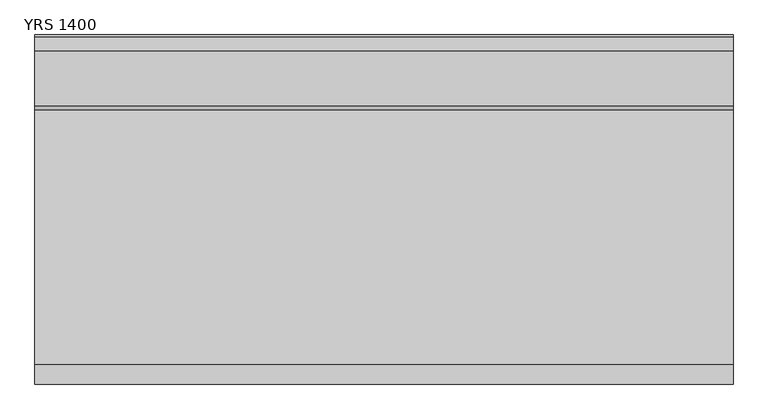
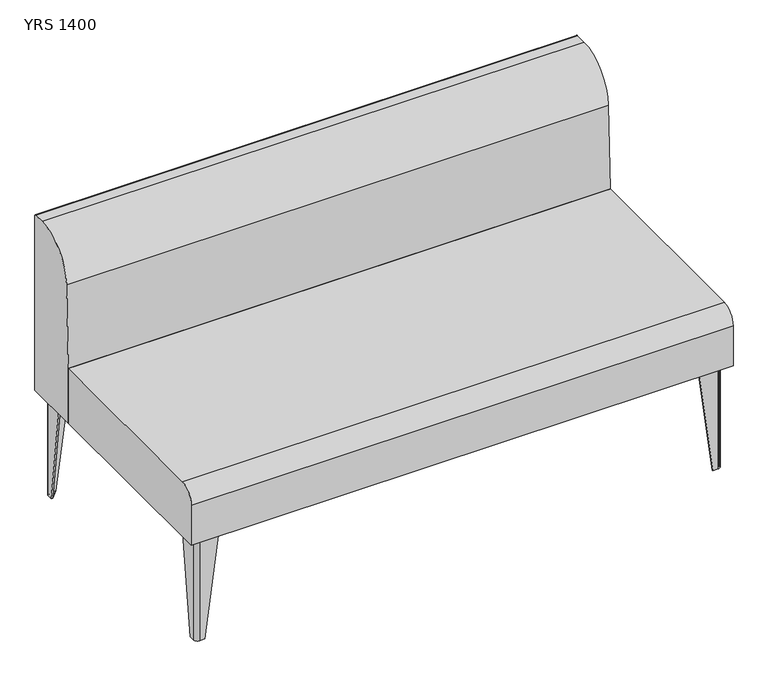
"""IFC4 building model written with IfcOpenShell, lengths in millimetres: furniture geometry, Mobiliário_Mobiliário de Escritório_LinhaYoung_Sofa Reto (Aço) - YR_Marelli : YRS 1400."""

from ifc_helpers import new_model, si_unit, point, frame, frame_2d, origin, origin_with_axes, place, context, project, spatial, polyline, circle_curve, trimmed, segment, composite_curve, outline, extrude, source, transform, mapped, element, save
from ifc_brep_helpers import plane_surface, cylinder_surface, revolved_surface, advanced_brep


def yrs_1400_05e61edc(model_context):
    return source(origin(), model_context, "Body", "SolidModel", [
        advanced_brep(
        [(20.0, 75.0, 280.0), (20.0, 25.0, 280.0), (30.0, 15.0, 280.0), (80.0, 15.0, 280.0), (80.0, 18.0, 280.0), (30.0, 18.0, 280.0), (23.0, 25.0, 280.0), (23.0, 75.0, 280.0), (20.0, 39.0, 0.0), (23.0, 39.0, 0.0), (23.0, 25.0, 0.0), (30.0, 18.0, 0.0), (44.0, 18.0, 0.0), (44.0, 15.0, 0.0), (30.0, 15.0, 0.0), (20.0, 25.0, 0.0)],
        [
            (0, 1),
            (1, 2, circle_curve(frame((30.0, 25.0, 280.0), z_axis=(0.0, 0.0, 1.0), x_axis=(0.0, -1.0, 0.0)), 10.0)),
            (2, 3),
            (3, 4),
            (4, 5),
            (5, 6, circle_curve(frame((30.0, 25.0, 280.0), z_axis=(0.0, 0.0, -1.0), x_axis=(-1.0, 0.0, 0.0)), 7.0)),
            (6, 7),
            (7, 0),
            (8, 9),
            (9, 10),
            (10, 11, circle_curve(frame((30.0, 25.0, 0.0), z_axis=(0.0, 0.0, 1.0), x_axis=(-1.0, 0.0, 0.0)), 7.0)),
            (11, 12),
            (12, 13),
            (13, 14),
            (14, 15, circle_curve(frame((30.0, 25.0, 0.0), z_axis=(0.0, 0.0, -1.0), x_axis=(0.0, -1.0, 0.0)), 10.0)),
            (15, 8),
            (15, 1),
            (0, 8),
            (14, 2),
            (13, 3),
            (12, 4),
            (11, 5),
            (10, 6),
            (9, 7),
        ],
        [
            plane_surface(frame((38.25, 33.25, 280.0), z_axis=(0.0, 0.0, 1.0), x_axis=(0.0, -1.0, 0.0))),
            plane_surface(frame((29.25, 24.25, 0.0), z_axis=(0.0, 0.0, -1.0), x_axis=(0.0, -1.0, 0.0))),
            plane_surface(frame((20.0, 32.0, 0.0), z_axis=(-1.0, 0.0, 0.0), x_axis=(0.0, -1.0, 0.0))),
            cylinder_surface(frame((30.0, 25.0, 0.0), z_axis=(0.0, 0.0, 1.0), x_axis=(0.0, -1.0, 0.0)), 10.0),
            plane_surface(frame((37.0, 15.0, 0.0), z_axis=(0.0, -1.0, 0.0), x_axis=(1.0, 0.0, 0.0))),
            plane_surface(frame((44.0, 16.5, 0.0), z_axis=(0.9918357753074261, 0.0, -0.12752174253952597), x_axis=(0.0, 1.0, 0.0))),
            plane_surface(frame((37.0, 18.0, 0.0), z_axis=(0.0, 1.0, 0.0), x_axis=(-1.0, 0.0, 0.0))),
            revolved_surface(polyline([(23.0, 25.0, 280.0), (23.0, 25.0, 0.0)]), (30.0, 25.0, 0.0), (0.0, 0.0, 1.0)),
            plane_surface(frame((23.0, 32.0, 0.0), z_axis=(1.0, 0.0, 0.0), x_axis=(0.0, 1.0, 0.0))),
            plane_surface(frame((21.5, 39.0, 0.0), z_axis=(0.0, 0.9918357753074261, -0.12752174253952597), x_axis=(-1.0, 0.0, 0.0))),
        ],
        [
            (0, [[1, 2, 3, 4, 5, 6, 7, 8]]),
            (1, [[9, 10, 11, 12, 13, 14, 15, 16]]),
            (2, [[-16, 17, -1, 18]]),
            (3, [[-15, 19, -2, -17]]),
            (4, [[-14, 20, -3, -19]]),
            (5, [[-13, 21, -4, -20]]),
            (6, [[-12, 22, -5, -21]]),
            (7, [[-11, 23, -6, -22]]),
            (8, [[-10, 24, -7, -23]]),
            (9, [[-9, -18, -8, -24]]),
        ],
    ),
        advanced_brep(
        [(1380.0, 75.0, 280.0), (1377.0, 75.0, 280.0), (1377.0, 25.0, 280.0), (1370.0, 18.0, 280.0), (1320.0, 18.0, 280.0), (1320.0, 15.0, 280.0), (1370.0, 15.0, 280.0), (1380.0, 25.0, 280.0), (1380.0, 39.0, 0.0), (1380.0, 25.0, 0.0), (1370.0, 15.0, 0.0), (1356.0, 15.0, 0.0), (1356.0, 18.0, 0.0), (1370.0, 18.0, 0.0), (1377.0, 25.0, 0.0), (1377.0, 39.0, 0.0)],
        [
            (0, 1),
            (1, 2),
            (2, 3, circle_curve(frame((1370.0, 25.0, 280.0), z_axis=(0.0, 0.0, -1.0), x_axis=(0.0, -1.0, 0.0)), 7.0)),
            (3, 4),
            (4, 5),
            (5, 6),
            (6, 7, circle_curve(frame((1370.0, 25.0, 280.0), z_axis=(0.0, 0.0, 1.0), x_axis=(1.0, 0.0, 0.0)), 10.0)),
            (7, 0),
            (8, 9),
            (9, 10, circle_curve(frame((1370.0, 25.0, 0.0), z_axis=(0.0, 0.0, -1.0), x_axis=(1.0, 0.0, 0.0)), 10.0)),
            (10, 11),
            (11, 12),
            (12, 13),
            (13, 14, circle_curve(frame((1370.0, 25.0, 0.0), z_axis=(0.0, 0.0, 1.0), x_axis=(0.0, -1.0, 0.0)), 7.0)),
            (14, 15),
            (15, 8),
            (8, 0),
            (7, 9),
            (6, 10),
            (5, 11),
            (4, 12),
            (3, 13),
            (2, 14),
            (1, 15),
        ],
        [
            plane_surface(frame((1361.75, 33.25, 280.0), z_axis=(0.0, 0.0, 1.0), x_axis=(-1.0, 0.0, 0.0))),
            plane_surface(frame((1370.75, 24.25, 0.0), z_axis=(0.0, 0.0, -1.0), x_axis=(-1.0, 0.0, 0.0))),
            plane_surface(frame((1380.0, 32.0, 0.0), z_axis=(1.0, 0.0, 0.0), x_axis=(0.0, 1.0, 0.0))),
            cylinder_surface(frame((1370.0, 25.0, 0.0), z_axis=(0.0, 0.0, 1.0), x_axis=(1.0, 0.0, 0.0)), 10.0),
            plane_surface(frame((1363.0, 15.0, 0.0), z_axis=(0.0, -1.0, 0.0), x_axis=(1.0, 0.0, 0.0))),
            plane_surface(frame((1356.0, 16.5, 0.0), z_axis=(-0.9918357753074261, 0.0, -0.127521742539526), x_axis=(0.0, -1.0, 0.0))),
            plane_surface(frame((1363.0, 18.0, 0.0), z_axis=(0.0, 1.0, 0.0), x_axis=(-1.0, 0.0, 0.0))),
            revolved_surface(polyline([(1370.0, 18.0, 280.0), (1370.0, 18.0, 0.0)]), (1370.0, 25.0, 0.0), (0.0, 0.0, 1.0)),
            plane_surface(frame((1377.0, 32.0, 0.0), z_axis=(-1.0, 0.0, 0.0), x_axis=(0.0, -1.0, 0.0))),
            plane_surface(frame((1378.5, 39.0, 0.0), z_axis=(0.0, 0.9918357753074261, -0.12752174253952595), x_axis=(-1.0, 0.0, 0.0))),
        ],
        [
            (0, [[1, 2, 3, 4, 5, 6, 7, 8]]),
            (1, [[9, 10, 11, 12, 13, 14, 15, 16]]),
            (2, [[-9, 17, -8, 18]]),
            (3, [[-10, -18, -7, 19]]),
            (4, [[-11, -19, -6, 20]]),
            (5, [[-12, -20, -5, 21]]),
            (6, [[-13, -21, -4, 22]]),
            (7, [[-14, -22, -3, 23]]),
            (8, [[-15, -23, -2, 24]]),
            (9, [[-16, -24, -1, -17]]),
        ],
    ),
        advanced_brep(
        [(20.0, 625.0, 280.0), (23.0, 625.0, 280.0), (23.0, 675.0, 280.0), (30.0, 682.0, 280.0), (80.0, 682.0, 280.0), (80.0, 685.0, 280.0), (30.0, 685.0, 280.0), (20.0, 675.0, 280.0), (20.0, 661.0, 0.0), (20.0, 675.0, 0.0), (30.0, 685.0, 0.0), (44.0, 685.0, 0.0), (44.0, 682.0, 0.0), (30.0, 682.0, 0.0), (23.0, 675.0, 0.0), (23.0, 661.0, 0.0)],
        [
            (0, 1),
            (1, 2),
            (2, 3, circle_curve(frame((30.0, 675.0, 280.0), z_axis=(0.0, 0.0, -1.0), x_axis=(0.0, 1.0, 0.0)), 7.0)),
            (3, 4),
            (4, 5),
            (5, 6),
            (6, 7, circle_curve(frame((30.0, 675.0, 280.0), z_axis=(0.0, 0.0, 1.0), x_axis=(-1.0, 0.0, 0.0)), 10.0)),
            (7, 0),
            (8, 9),
            (9, 10, circle_curve(frame((30.0, 675.0, 0.0), z_axis=(0.0, 0.0, -1.0), x_axis=(-1.0, 0.0, 0.0)), 10.0)),
            (10, 11),
            (11, 12),
            (12, 13),
            (13, 14, circle_curve(frame((30.0, 675.0, 0.0), z_axis=(0.0, 0.0, 1.0), x_axis=(0.0, 1.0, 0.0)), 7.0)),
            (14, 15),
            (15, 8),
            (8, 0),
            (7, 9),
            (6, 10),
            (5, 11),
            (4, 12),
            (3, 13),
            (2, 14),
            (1, 15),
        ],
        [
            plane_surface(frame((38.25, 666.75, 280.0), z_axis=(0.0, 0.0, 1.0), x_axis=(1.0, 0.0, 0.0))),
            plane_surface(frame((29.25, 675.75, 0.0), z_axis=(0.0, 0.0, -1.0), x_axis=(1.0, 0.0, 0.0))),
            plane_surface(frame((20.0, 668.0, 0.0), z_axis=(-1.0, 0.0, 0.0), x_axis=(0.0, -1.0, 0.0))),
            cylinder_surface(frame((30.0, 675.0, 0.0), z_axis=(0.0, 0.0, 1.0), x_axis=(-1.0, 0.0, 0.0)), 10.0),
            plane_surface(frame((37.0, 685.0, 0.0), z_axis=(0.0, 1.0, 0.0), x_axis=(-1.0, 0.0, 0.0))),
            plane_surface(frame((44.0, 683.5, 0.0), z_axis=(0.9918357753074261, 0.0, -0.12752174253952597), x_axis=(0.0, 1.0, 0.0))),
            plane_surface(frame((37.0, 682.0, 0.0), z_axis=(0.0, -1.0, 0.0), x_axis=(1.0, 0.0, 0.0))),
            revolved_surface(polyline([(30.0, 682.0, 280.0), (30.0, 682.0, 0.0)]), (30.0, 675.0, 0.0), (0.0, 0.0, 1.0)),
            plane_surface(frame((23.0, 668.0, 0.0), z_axis=(1.0, 0.0, 0.0), x_axis=(0.0, 1.0, 0.0))),
            plane_surface(frame((21.5, 661.0, 0.0), z_axis=(0.0, -0.9918357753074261, -0.127521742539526), x_axis=(1.0, 0.0, 0.0))),
        ],
        [
            (0, [[1, 2, 3, 4, 5, 6, 7, 8]]),
            (1, [[9, 10, 11, 12, 13, 14, 15, 16]]),
            (2, [[-9, 17, -8, 18]]),
            (3, [[-10, -18, -7, 19]]),
            (4, [[-11, -19, -6, 20]]),
            (5, [[-12, -20, -5, 21]]),
            (6, [[-13, -21, -4, 22]]),
            (7, [[-14, -22, -3, 23]]),
            (8, [[-15, -23, -2, 24]]),
            (9, [[-16, -24, -1, -17]]),
        ],
    ),
        advanced_brep(
        [(1380.0, 625.0, 280.0), (1380.0, 675.0, 280.0), (1370.0, 685.0, 280.0), (1320.0, 685.0, 280.0), (1320.0, 682.0, 280.0), (1370.0, 682.0, 280.0), (1377.0, 675.0, 280.0), (1377.0, 625.0, 280.0), (1380.0, 661.0, 0.0), (1377.0, 661.0, 0.0), (1377.0, 675.0, 0.0), (1370.0, 682.0, 0.0), (1356.0, 682.0, 0.0), (1356.0, 685.0, 0.0), (1370.0, 685.0, 0.0), (1380.0, 675.0, 0.0)],
        [
            (0, 1),
            (1, 2, circle_curve(frame((1370.0, 675.0, 280.0), z_axis=(0.0, 0.0, 1.0), x_axis=(0.0, 1.0, 0.0)), 10.0)),
            (2, 3),
            (3, 4),
            (4, 5),
            (5, 6, circle_curve(frame((1370.0, 675.0, 280.0), z_axis=(0.0, 0.0, -1.0), x_axis=(1.0, 0.0, 0.0)), 7.0)),
            (6, 7),
            (7, 0),
            (8, 9),
            (9, 10),
            (10, 11, circle_curve(frame((1370.0, 675.0, 0.0), z_axis=(0.0, 0.0, 1.0), x_axis=(1.0, 0.0, 0.0)), 7.0)),
            (11, 12),
            (12, 13),
            (13, 14),
            (14, 15, circle_curve(frame((1370.0, 675.0, 0.0), z_axis=(0.0, 0.0, -1.0), x_axis=(0.0, 1.0, 0.0)), 10.0)),
            (15, 8),
            (15, 1),
            (0, 8),
            (14, 2),
            (13, 3),
            (12, 4),
            (11, 5),
            (10, 6),
            (9, 7),
        ],
        [
            plane_surface(frame((1361.75, 666.75, 280.0), z_axis=(0.0, 0.0, 1.0), x_axis=(0.0, 1.0, 0.0))),
            plane_surface(frame((1370.75, 675.75, 0.0), z_axis=(0.0, 0.0, -1.0), x_axis=(0.0, 1.0, 0.0))),
            plane_surface(frame((1380.0, 668.0, 0.0), z_axis=(1.0, 0.0, 0.0), x_axis=(0.0, 1.0, 0.0))),
            cylinder_surface(frame((1370.0, 675.0, 0.0), z_axis=(0.0, 0.0, 1.0), x_axis=(0.0, 1.0, 0.0)), 10.0),
            plane_surface(frame((1363.0, 685.0, 0.0), z_axis=(0.0, 1.0, 0.0), x_axis=(-1.0, 0.0, 0.0))),
            plane_surface(frame((1356.0, 683.5, 0.0), z_axis=(-0.9918357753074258, 0.0, -0.1275217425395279), x_axis=(0.0, -1.0, 0.0))),
            plane_surface(frame((1363.0, 682.0, 0.0), z_axis=(0.0, -1.0, 0.0), x_axis=(1.0, 0.0, 0.0))),
            revolved_surface(polyline([(1377.0, 675.0, 280.0), (1377.0, 675.0, 0.0)]), (1370.0, 675.0, 0.0), (0.0, 0.0, 1.0)),
            plane_surface(frame((1377.0, 668.0, 0.0), z_axis=(-1.0, 0.0, 0.0), x_axis=(0.0, -1.0, 0.0))),
            plane_surface(frame((1378.5, 661.0, 0.0), z_axis=(0.0, -0.9918357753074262, -0.12752174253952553), x_axis=(1.0, 0.0, 0.0))),
        ],
        [
            (0, [[1, 2, 3, 4, 5, 6, 7, 8]]),
            (1, [[9, 10, 11, 12, 13, 14, 15, 16]]),
            (2, [[-16, 17, -1, 18]]),
            (3, [[-15, 19, -2, -17]]),
            (4, [[-14, 20, -3, -19]]),
            (5, [[-13, 21, -4, -20]]),
            (6, [[-12, 22, -5, -21]]),
            (7, [[-11, 23, -6, -22]]),
            (8, [[-10, 24, -7, -23]]),
            (9, [[-9, -18, -8, -24]]),
        ],
    ),
        extrude(outline(composite_curve([segment(polyline([(23.0, 39.0), (44.0, 18.0), (30.0, 18.0)]), True, "CONTINUOUS"), segment(trimmed(circle_curve(frame_2d((30.0, 25.0)), 7.0), [point((30.0, 18.0))], [point((23.0, 25.0))], False, "CARTESIAN"), True, "CONTINUOUS"), segment(polyline([(23.0, 25.0), (23.0, 39.0)]), True, "CONTINUOUS")], self_intersect=False)), origin_with_axes(), (0.0, 0.0, 1.0), 1.0),
        extrude(outline(composite_curve([segment(polyline([(23.0, 661.0), (23.0, 675.0)]), True, "CONTINUOUS"), segment(trimmed(circle_curve(frame_2d((30.0, 675.0)), 7.0), [point((23.0, 675.0))], [point((30.0, 682.0))], False, "CARTESIAN"), True, "CONTINUOUS"), segment(polyline([(30.0, 682.0), (44.0, 682.0), (23.0, 661.0)]), True, "CONTINUOUS")], self_intersect=False)), origin_with_axes(), (0.0, 0.0, 1.0), 1.0),
        extrude(outline(composite_curve([segment(polyline([(1377.0, 39.0), (1377.0, 25.0)]), True, "CONTINUOUS"), segment(trimmed(circle_curve(frame_2d((1370.0, 25.0)), 7.0), [point((1377.0, 25.0))], [point((1370.0, 18.0))], False, "CARTESIAN"), True, "CONTINUOUS"), segment(polyline([(1370.0, 18.0), (1356.0, 18.0), (1377.0, 39.0)]), True, "CONTINUOUS")], self_intersect=False)), origin_with_axes(), (0.0, 0.0, 1.0), 1.0),
        extrude(outline(composite_curve([segment(polyline([(1377.0, 661.0), (1356.0, 682.0), (1370.0, 682.0)]), True, "CONTINUOUS"), segment(trimmed(circle_curve(frame_2d((1370.0, 675.0)), 7.0), [point((1370.0, 682.0))], [point((1377.0, 675.0))], False, "CARTESIAN"), True, "CONTINUOUS"), segment(polyline([(1377.0, 675.0), (1377.0, 661.0)]), True, "CONTINUOUS")], self_intersect=False)), origin_with_axes(), (0.0, 0.0, 1.0), 1.0),
        extrude(outline(composite_curve([segment(trimmed(circle_curve(frame_2d((30.0, 25.0)), 7.0), [point((30.0, 18.0))], [point((23.0, 25.0))], False, "CARTESIAN"), True, "CONTINUOUS"), segment(polyline([(23.0, 25.0), (23.0, 93.0)]), True, "CONTINUOUS"), segment(trimmed(circle_curve(frame_2d((28.0, 93.0)), 5.0), [point((23.0, 93.0))], [point((28.0, 98.0))], False, "CARTESIAN"), True, "CONTINUOUS"), segment(polyline([(28.0, 98.0), (51.9545624, 98.0)]), True, "CONTINUOUS"), segment(trimmed(circle_curve(frame_2d((52.6241051, 89.931755)), 8.0959783), [point((51.9545624, 98.0))], [point((58.520382, 95.479618))], False, "CARTESIAN"), True, "CONTINUOUS"), segment(polyline([(58.520382, 95.479618), (100.479618, 53.520382)]), True, "CONTINUOUS"), segment(trimmed(circle_curve(frame_2d((94.931755, 47.6241051)), 8.0959783), [point((100.479618, 53.520382))], [point((103.0, 46.9545624))], False, "CARTESIAN"), True, "CONTINUOUS"), segment(polyline([(103.0, 46.9545624), (103.0, 23.0)]), True, "CONTINUOUS"), segment(trimmed(circle_curve(frame_2d((98.0, 23.0)), 5.0), [point((103.0, 23.0))], [point((98.0, 18.0))], False, "CARTESIAN"), True, "CONTINUOUS"), segment(polyline([(98.0, 18.0), (30.0, 18.0)]), True, "CONTINUOUS")], self_intersect=False)), frame((0.0, 0.0, 279.0), z_axis=(0.0, 0.0, 1.0), x_axis=(1.0, 0.0, 0.0)), (0.0, 0.0, 1.0), 1.0),
        extrude(outline(composite_curve([segment(polyline([(30.0, 682.0), (98.0, 682.0)]), True, "CONTINUOUS"), segment(trimmed(circle_curve(frame_2d((98.0, 677.0)), 5.0), [point((98.0, 682.0))], [point((103.0, 677.0))], False, "CARTESIAN"), True, "CONTINUOUS"), segment(polyline([(103.0, 677.0), (103.0, 653.0454376)]), True, "CONTINUOUS"), segment(trimmed(circle_curve(frame_2d((94.931755, 652.3758949)), 8.0959783), [point((103.0, 653.0454376))], [point((100.479618, 646.479618))], False, "CARTESIAN"), True, "CONTINUOUS"), segment(polyline([(100.479618, 646.479618), (58.520382, 604.520382)]), True, "CONTINUOUS"), segment(trimmed(circle_curve(frame_2d((52.6241051, 610.068245)), 8.0959783), [point((58.520382, 604.520382))], [point((51.9545624, 602.0))], False, "CARTESIAN"), True, "CONTINUOUS"), segment(polyline([(51.9545624, 602.0), (28.0, 602.0)]), True, "CONTINUOUS"), segment(trimmed(circle_curve(frame_2d((28.0, 607.0)), 5.0), [point((28.0, 602.0))], [point((23.0, 607.0))], False, "CARTESIAN"), True, "CONTINUOUS"), segment(polyline([(23.0, 607.0), (23.0, 675.0)]), True, "CONTINUOUS"), segment(trimmed(circle_curve(frame_2d((30.0, 675.0)), 7.0), [point((23.0, 675.0))], [point((30.0, 682.0))], False, "CARTESIAN"), True, "CONTINUOUS")], self_intersect=False)), frame((0.0, 0.0, 279.0), z_axis=(0.0, 0.0, 1.0), x_axis=(1.0, 0.0, 0.0)), (0.0, 0.0, 1.0), 1.0),
        extrude(outline(composite_curve([segment(polyline([(1370.0, 18.0), (1302.0, 18.0)]), True, "CONTINUOUS"), segment(trimmed(circle_curve(frame_2d((1302.0, 23.0)), 5.0), [point((1302.0, 18.0))], [point((1297.0, 23.0))], False, "CARTESIAN"), True, "CONTINUOUS"), segment(polyline([(1297.0, 23.0), (1297.0, 46.9545624)]), True, "CONTINUOUS"), segment(trimmed(circle_curve(frame_2d((1305.068245, 47.6241051)), 8.0959783), [point((1297.0, 46.9545624))], [point((1299.520382, 53.520382))], False, "CARTESIAN"), True, "CONTINUOUS"), segment(polyline([(1299.520382, 53.520382), (1341.479618, 95.479618)]), True, "CONTINUOUS"), segment(trimmed(circle_curve(frame_2d((1347.3758949, 89.931755)), 8.0959783), [point((1341.479618, 95.479618))], [point((1348.0454376, 98.0))], False, "CARTESIAN"), True, "CONTINUOUS"), segment(polyline([(1348.0454376, 98.0), (1372.0, 98.0)]), True, "CONTINUOUS"), segment(trimmed(circle_curve(frame_2d((1372.0, 93.0)), 5.0), [point((1372.0, 98.0))], [point((1377.0, 93.0))], False, "CARTESIAN"), True, "CONTINUOUS"), segment(polyline([(1377.0, 93.0), (1377.0, 25.0)]), True, "CONTINUOUS"), segment(trimmed(circle_curve(frame_2d((1370.0, 25.0)), 7.0), [point((1377.0, 25.0))], [point((1370.0, 18.0))], False, "CARTESIAN"), True, "CONTINUOUS")], self_intersect=False)), frame((0.0, 0.0, 279.0), z_axis=(0.0, 0.0, 1.0), x_axis=(1.0, 0.0, 0.0)), (0.0, 0.0, 1.0), 1.0),
        extrude(outline(composite_curve([segment(trimmed(circle_curve(frame_2d((1370.0, 675.0)), 7.0), [point((1370.0, 682.0))], [point((1377.0, 675.0))], False, "CARTESIAN"), True, "CONTINUOUS"), segment(polyline([(1377.0, 675.0), (1377.0, 607.0)]), True, "CONTINUOUS"), segment(trimmed(circle_curve(frame_2d((1372.0, 607.0)), 5.0), [point((1377.0, 607.0))], [point((1372.0, 602.0))], False, "CARTESIAN"), True, "CONTINUOUS"), segment(polyline([(1372.0, 602.0), (1348.0454376, 602.0)]), True, "CONTINUOUS"), segment(trimmed(circle_curve(frame_2d((1347.3758949, 610.068245)), 8.0959783), [point((1348.0454376, 602.0))], [point((1341.479618, 604.520382))], False, "CARTESIAN"), True, "CONTINUOUS"), segment(polyline([(1341.479618, 604.520382), (1299.520382, 646.479618)]), True, "CONTINUOUS"), segment(trimmed(circle_curve(frame_2d((1305.068245, 652.3758949)), 8.0959783), [point((1299.520382, 646.479618))], [point((1297.0, 653.0454376))], False, "CARTESIAN"), True, "CONTINUOUS"), segment(polyline([(1297.0, 653.0454376), (1297.0, 677.0)]), True, "CONTINUOUS"), segment(trimmed(circle_curve(frame_2d((1302.0, 677.0)), 5.0), [point((1297.0, 677.0))], [point((1302.0, 682.0))], False, "CARTESIAN"), True, "CONTINUOUS"), segment(polyline([(1302.0, 682.0), (1370.0, 682.0)]), True, "CONTINUOUS")], self_intersect=False)), frame((0.0, 0.0, 279.0), z_axis=(0.0, 0.0, 1.0), x_axis=(1.0, 0.0, 0.0)), (0.0, 0.0, 1.0), 1.0),
        extrude(outline(composite_curve([segment(polyline([(700.0, 756.802426), (700.0, 280.0), (550.0, 280.0), (550.0, 430.0), (558.2568376, 654.223651)]), True, "CONTINUOUS"), segment(trimmed(circle_curve(frame_2d((668.0, 650.1824561)), 109.8175439), [point((558.2568376, 654.223651))], [point((668.0, 760.0))], False, "CARTESIAN"), True, "CONTINUOUS"), segment(polyline([(668.0, 760.0), (696.802426, 760.0)]), True, "CONTINUOUS"), segment(trimmed(circle_curve(frame_2d((696.802426, 756.802426)), 3.197574), [point((696.802426, 760.0))], [point((700.0, 756.802426))], False, "CARTESIAN"), True, "CONTINUOUS")], self_intersect=False)), frame((0.0, 0.0, 0.0), z_axis=(1.0, 0.0, 0.0), x_axis=(0.0, 1.0, 0.0)), (0.0, 0.0, 1.0), 1400.0),
        extrude(outline(composite_curve([segment(polyline([(550.0, 430.0), (550.0, 280.0), (0.0, 280.0), (0.0, 390.0)]), True, "CONTINUOUS"), segment(trimmed(circle_curve(frame_2d((40.0, 390.0)), 40.0), [point((0.0, 390.0))], [point((40.0, 430.0))], False, "CARTESIAN"), True, "CONTINUOUS"), segment(polyline([(40.0, 430.0), (550.0, 430.0)]), True, "CONTINUOUS")], self_intersect=False)), frame((0.0, 0.0, 0.0), z_axis=(1.0, 0.0, 0.0), x_axis=(0.0, 1.0, 0.0)), (0.0, 0.0, 1.0), 1400.0),
    ])


if __name__ == "__main__":
    model = new_model("IFC4")
    model_context = context("Model", 3, world=origin())
    ifc_project = project(units=[si_unit("LENGTHUNIT", "METRE", prefix="MILLI")], contexts=[model_context])
    site = spatial("IfcSite", under=ifc_project)
    building = spatial("IfcBuilding", under=site)
    placement = place(None, origin())
    yrs_1400_shape = yrs_1400_05e61edc(model_context)
    element("IfcFurniture", 1, ObjectType="Mobiliário_Mobiliário de Escritório_LinhaYoung_Sofa Reto (Aço) - YR_Marelli : YRS 1400", at=placement, inside=building, context=model_context, shape_type="MappedRepresentation", body=[
        mapped(yrs_1400_shape, transform((0.0, 0.0, 0.0), x_axis=(1.0, 0.0, 0.0), y_axis=(0.0, 1.0, 0.0), z_axis=(0.0, 0.0, 1.0))),
    ])
    save(model, "model.ifc")
